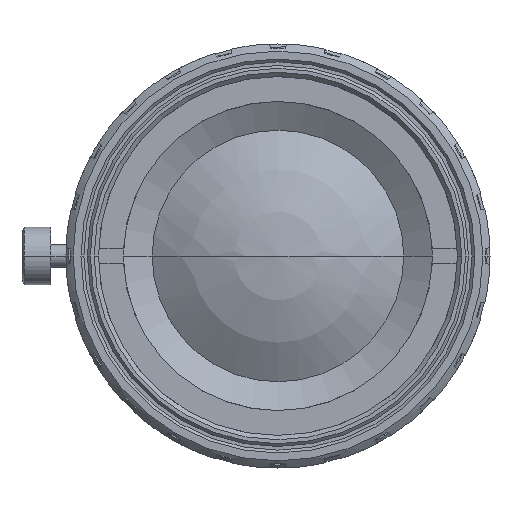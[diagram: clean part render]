
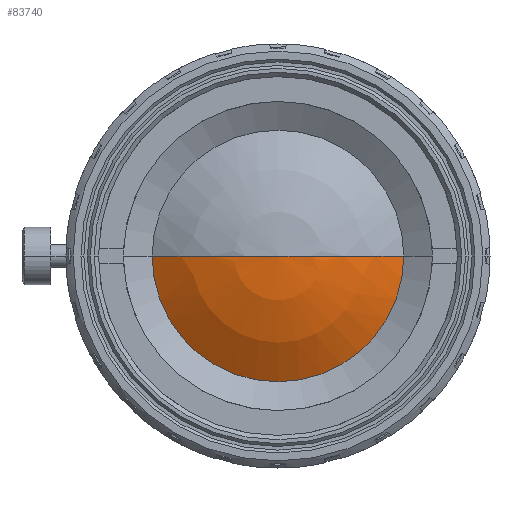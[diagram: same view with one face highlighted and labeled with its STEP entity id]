
A CAD part, left-side view. The second image highlights one B-rep face of the part: STEP entity #83740.
In plain terms, the highlighted spherical face has radius 15.727 mm.
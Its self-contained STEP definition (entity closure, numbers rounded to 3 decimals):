
#83320=CARTESIAN_POINT('',(-25.821,-8.75,0.));
#83330=VERTEX_POINT('',#83320);
#83410=CARTESIAN_POINT('',(-25.821,8.75,0.));
#83420=VERTEX_POINT('',#83410);
#83450=CARTESIAN_POINT('',(-25.821,0.,0.));
#83460=DIRECTION('',(1.,0.,0.));
#83470=DIRECTION('',(0.,1.,0.));
#83480=AXIS2_PLACEMENT_3D('',#83450,#83460,#83470);
#83490=CIRCLE('',#83480,8.75);
#83500=EDGE_CURVE('',#83330,#83420,#83490,.T.);
#83550=CARTESIAN_POINT('',(-12.753,0.,0.));
#83560=DIRECTION('',(1.,0.,0.));
#83570=DIRECTION('',(0.,-1.,0.));
#83580=AXIS2_PLACEMENT_3D('',#83550,#83560,#83570);
#83590=SPHERICAL_SURFACE('',#83580,15.727);
#83600=CARTESIAN_POINT('',(-12.753,0.,0.));
#83610=DIRECTION('',(0.,0.,-1.));
#83620=DIRECTION('',(1.,-0.,0.));
#83630=AXIS2_PLACEMENT_3D('',#83600,#83610,#83620);
#83640=CIRCLE('',#83630,15.727);
#83650=CARTESIAN_POINT('',(-28.48,0.,0.));
#83660=VERTEX_POINT('',#83650);
#83670=EDGE_CURVE('',#83660,#83420,#83640,.T.);
#83680=ORIENTED_EDGE('',*,*,#83670,.T.);
#83690=EDGE_CURVE('',#83330,#83660,#83640,.T.);
#83700=ORIENTED_EDGE('',*,*,#83690,.T.);
#83710=ORIENTED_EDGE('',*,*,#83500,.F.);
#83720=EDGE_LOOP('',(#83710,#83700,#83680));
#83730=FACE_OUTER_BOUND('',#83720,.T.);
#83740=ADVANCED_FACE('',(#83730),#83590,.T.);
